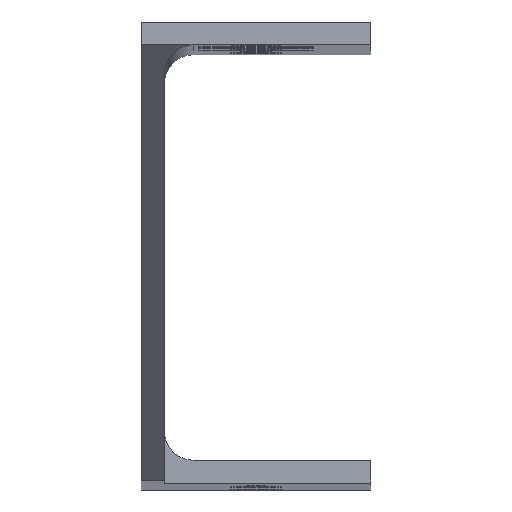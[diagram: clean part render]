
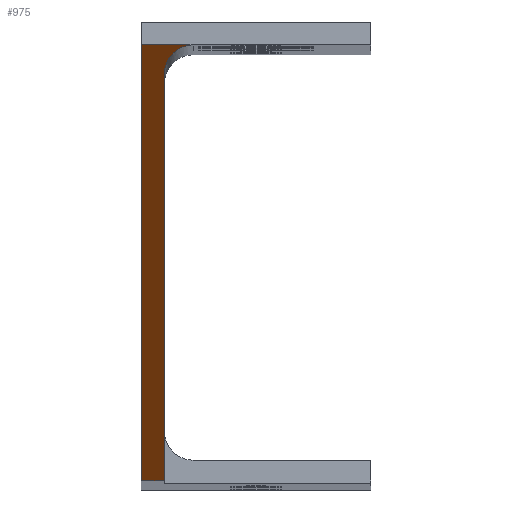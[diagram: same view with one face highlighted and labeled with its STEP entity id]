
A CAD part, top view. The second image highlights one B-rep face of the part: STEP entity #975.
In plain terms, the highlighted planar face has unit normal (0, -0.707, 0.707).
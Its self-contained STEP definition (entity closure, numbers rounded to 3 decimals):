
#118 = ORIENTED_EDGE ( 'NONE', *, *, #399, .F. ) ;
#128 = CARTESIAN_POINT ( 'NONE',  ( 4., 38., 961. ) ) ;
#314 = ORIENTED_EDGE ( 'NONE', *, *, #805, .T. ) ;
#369 = CARTESIAN_POINT ( 'NONE',  ( 9., 76., 999. ) ) ;
#399 = EDGE_CURVE ( 'NONE', #536, #2726, #1983, .T. ) ;
#402 = DIRECTION ( 'NONE',  ( 0., 0.707, -0.707 ) ) ;
#440 = PLANE ( 'NONE',  #1298 ) ;
#479 = CARTESIAN_POINT ( 'NONE',  ( 40., 76., 999. ) ) ;
#528 = CARTESIAN_POINT ( 'NONE',  ( 0., 76., 999. ) ) ;
#534 = VERTEX_POINT ( 'NONE', #982 ) ;
#536 = VERTEX_POINT ( 'NONE', #2054 ) ;
#551 = VERTEX_POINT ( 'NONE', #2850 ) ;
#564 = EDGE_CURVE ( 'NONE', #1765, #534, #2793, .T. ) ;
#611 = DIRECTION ( 'NONE',  ( -1., 0., 0. ) ) ;
#626 = CARTESIAN_POINT ( 'NONE',  ( 4., 73.929, 996.929 ) ) ;
#805 = EDGE_CURVE ( 'NONE', #534, #551, #1028, .T. ) ;
#807 = CARTESIAN_POINT ( 'NONE',  ( 9., 76., 999. ) ) ;
#962 = DIRECTION ( 'NONE',  ( 0., 0.707, 0.707 ) ) ;
#975 = ADVANCED_FACE ( 'NONE', ( #1200 ), #440, .F. ) ;
#982 = CARTESIAN_POINT ( 'NONE',  ( 0., 76., 999. ) ) ;
#1028 = LINE ( 'NONE', #528, #2742 ) ;
#1167 = CARTESIAN_POINT ( 'NONE',  ( 4., 0., 923. ) ) ;
#1183 = LINE ( 'NONE', #2204, #2326 ) ;
#1200 = FACE_OUTER_BOUND ( 'NONE', #2048, .T. ) ;
#1298 = AXIS2_PLACEMENT_3D ( 'NONE', #2564, #402, #962 ) ;
#1451 = CARTESIAN_POINT ( 'NONE',  ( 6.071, 76., 999. ) ) ;
#1664 = CARTESIAN_POINT ( 'NONE',  ( 4., 71., 994. ) ) ;
#1765 = VERTEX_POINT ( 'NONE', #807 ) ;
#1873 = EDGE_CURVE ( 'NONE', #2726, #551, #1183, .T. ) ;
#1878 = EDGE_CURVE ( 'NONE', #1765, #536, #1884, .T. ) ;
#1884 =( BOUNDED_CURVE ( )  B_SPLINE_CURVE ( 3, ( #369, #1451, #626, #1664 ),
 .UNSPECIFIED., .F., .T. ) 
 B_SPLINE_CURVE_WITH_KNOTS ( ( 4, 4 ),
 ( 0., 1.571 ),
 .UNSPECIFIED. ) 
 CURVE ( )  GEOMETRIC_REPRESENTATION_ITEM ( )  RATIONAL_B_SPLINE_CURVE ( ( 1., 0.805, 0.805, 1. ) ) 
 REPRESENTATION_ITEM ( '' )  );
#1927 = DIRECTION ( 'NONE',  ( 0., -0.707, -0.707 ) ) ;
#1983 = LINE ( 'NONE', #128, #2909 ) ;
#2048 = EDGE_LOOP ( 'NONE', ( #2643, #2906, #314, #2105, #118 ) ) ;
#2054 = CARTESIAN_POINT ( 'NONE',  ( 4., 71., 994. ) ) ;
#2103 = DIRECTION ( 'NONE',  ( 0., -0.707, -0.707 ) ) ;
#2105 = ORIENTED_EDGE ( 'NONE', *, *, #1873, .F. ) ;
#2204 = CARTESIAN_POINT ( 'NONE',  ( 40., 0., 923. ) ) ;
#2326 = VECTOR ( 'NONE', #611, 1000. ) ;
#2461 = VECTOR ( 'NONE', #3379, 1000. ) ;
#2564 = CARTESIAN_POINT ( 'NONE',  ( 40., 76., 999. ) ) ;
#2643 = ORIENTED_EDGE ( 'NONE', *, *, #1878, .F. ) ;
#2726 = VERTEX_POINT ( 'NONE', #1167 ) ;
#2742 = VECTOR ( 'NONE', #2103, 1000. ) ;
#2793 = LINE ( 'NONE', #479, #2461 ) ;
#2850 = CARTESIAN_POINT ( 'NONE',  ( 0., 0., 923. ) ) ;
#2906 = ORIENTED_EDGE ( 'NONE', *, *, #564, .T. ) ;
#2909 = VECTOR ( 'NONE', #1927, 1000. ) ;
#3379 = DIRECTION ( 'NONE',  ( -1., 0., 0. ) ) ;
